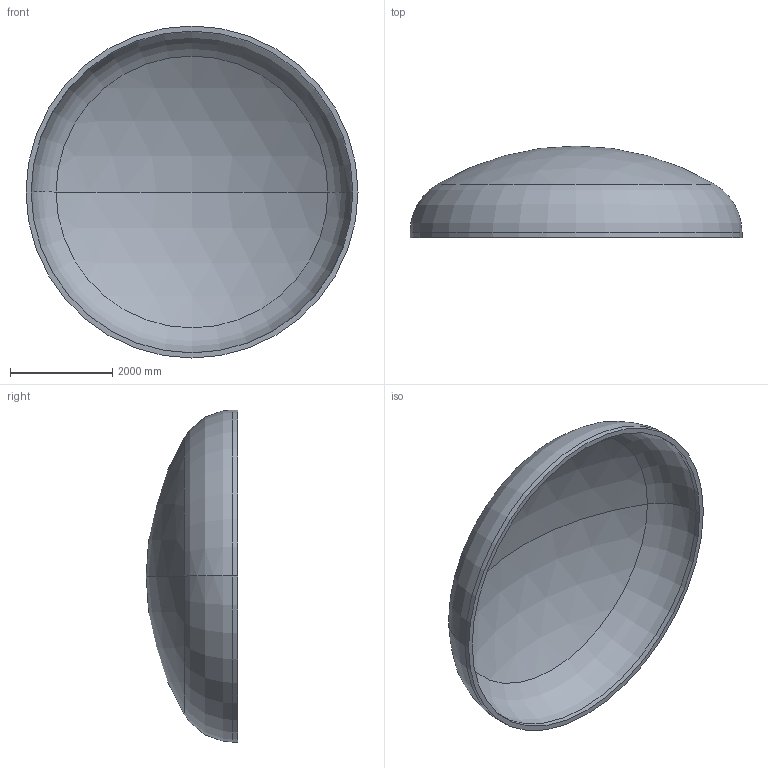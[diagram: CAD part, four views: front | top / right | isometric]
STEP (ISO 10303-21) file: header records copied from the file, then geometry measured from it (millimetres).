
FILE_DESCRIPTION (( 'STEP AP203' ), '1' );
FILE_NAME ('DIN 28013 Korbbogenform_-_Boden DIN 28013 - 6500 x 100 - I - s=100.step', '2016-07-04T10:43:59', ( '' ), ( '' ), 'SwSTEP 2.0', 'SolidWorks 2013', '' );
FILE_SCHEMA (( 'CONFIG_CONTROL_DESIGN' ));
Length unit declared in the file: millimetre
Products named in the file (1): DIN 28013 Korbbogenform_-_Boden DIN 28013 - 6500 x 100 - I - s=100
Bounding box: 6500 x 1792.02 x 6500 mm (x, y, z)
Volume: 4703569714 mm3; surface area: 96102922.1 mm2
Topology: 1 solids, 1 shells, 13 faces, 24 edges, 14 vertices
Faces by surface type: torus 4, cylinder 4, sphere 4, plane 1
Entity records: 407 total; most frequent: DIRECTION 72, CARTESIAN_POINT 52, ORIENTED_EDGE 48, AXIS2_PLACEMENT_3D 34, EDGE_CURVE 24, CIRCLE 20, EDGE_LOOP 14, VERTEX_POINT 14
